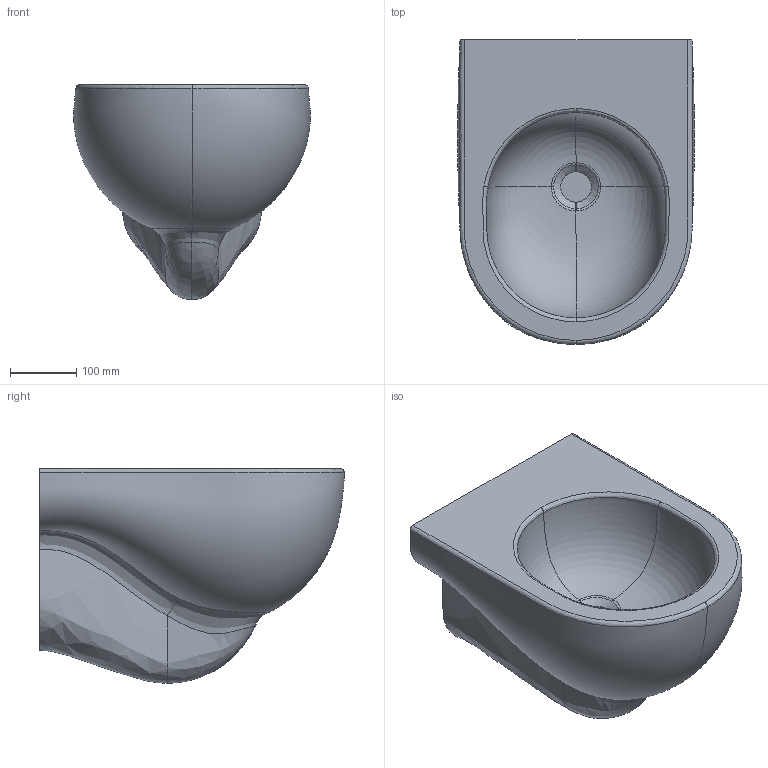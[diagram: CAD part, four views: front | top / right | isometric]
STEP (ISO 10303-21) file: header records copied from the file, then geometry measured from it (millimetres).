
FILE_DESCRIPTION (( 'STEP AP203' ), '1' );
FILE_NAME ('NUV546_SOSK.STEP', '2017-12-07T11:11:07', ( '' ), ( '' ), 'SwSTEP 2.0', 'SolidWorks 2018', '' );
FILE_SCHEMA (( 'CONFIG_CONTROL_DESIGN' ));
Length unit declared in the file: millimetre
Products named in the file (1): NUV546_SOSK
Bounding box: 357.16 x 459.93 x 324 mm (x, y, z)
Volume: 20182087.2 mm3; surface area: 643281 mm2
Topology: 1 solids, 1 shells, 44 faces, 96 edges, 57 vertices
Faces by surface type: bspline 26, cylinder 6, cone 6, plane 6
Entity records: 183164 total; most frequent: CARTESIAN_POINT 182349, ORIENTED_EDGE 192, EDGE_CURVE 96, DIRECTION 81, B_SPLINE_CURVE_WITH_KNOTS 67, VERTEX_POINT 57, EDGE_LOOP 47, FACE_OUTER_BOUND 44
